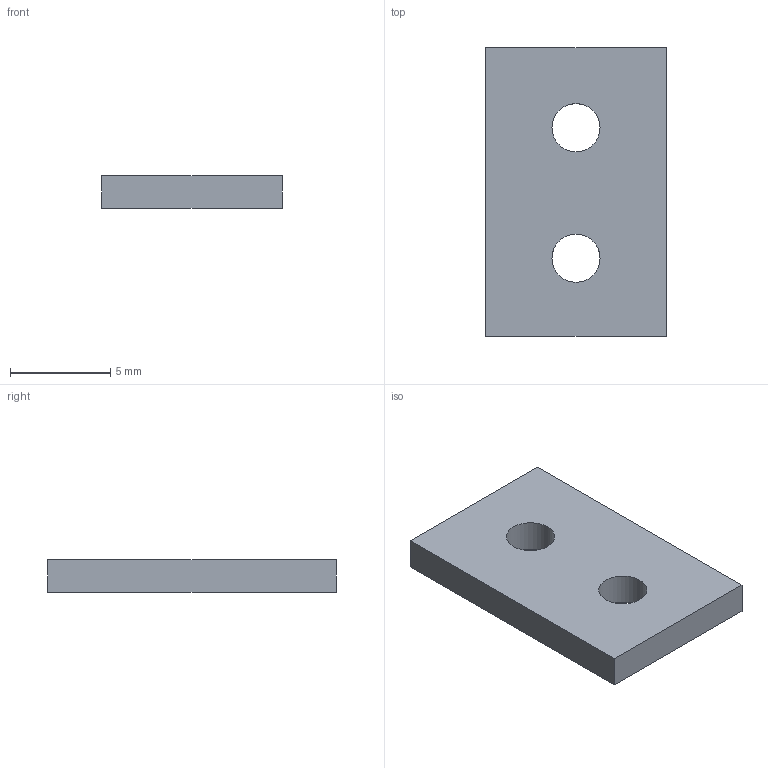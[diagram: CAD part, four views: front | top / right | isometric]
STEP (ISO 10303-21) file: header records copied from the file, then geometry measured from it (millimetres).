
FILE_DESCRIPTION(('Open CASCADE Model'),'2;1');
FILE_NAME('Open CASCADE Shape Model','2026-10-16T20:10:44',('Author'),( 'Open CASCADE'),'Open CASCADE STEP processor 7.9','Open CASCADE 7.9' ,'Unknown');
FILE_SCHEMA(('AUTOMOTIVE_DESIGN { 1 0 10303 214 1 1 1 1 }'));
Length unit declared in the file: millimetre
Products named in the file (1): Open CASCADE STEP translator 7.9 14
Bounding box: 9 x 14.4 x 1.6 mm (x, y, z)
Volume: 192.9 mm3; surface area: 340.1 mm2
Topology: 1 solids, 1 shells, 8 faces, 18 edges, 12 vertices
Faces by surface type: plane 6, cylinder 2
Full cylindrical faces by diameter (mm): 2.4 x2
Entity records: 490 total; most frequent: CARTESIAN_POINT 99, DIRECTION 72, LINE 46, VECTOR 46, ORIENTED_EDGE 36, PCURVE 36, DEFINITIONAL_REPRESENTATION 36, EDGE_CURVE 18
